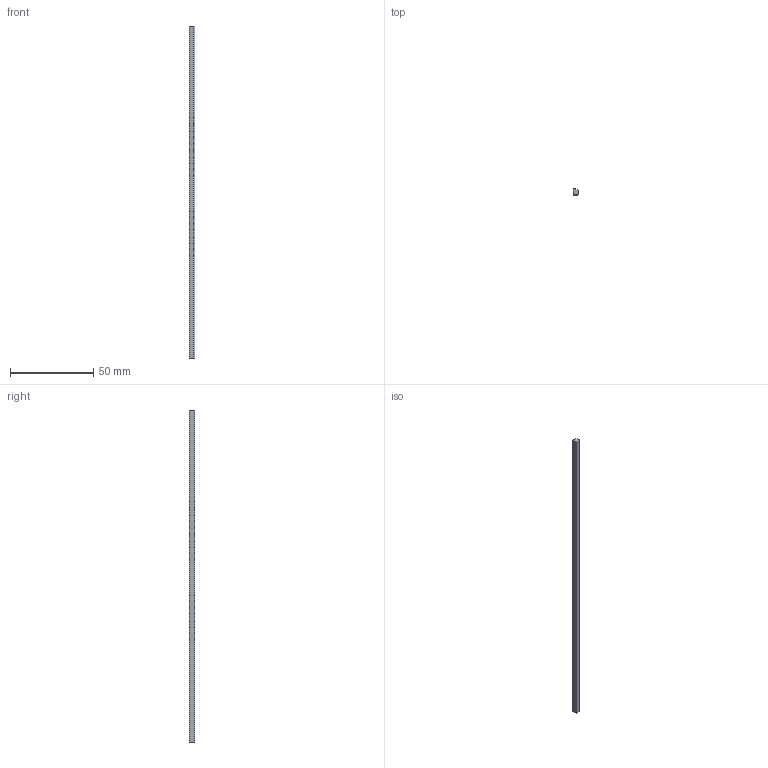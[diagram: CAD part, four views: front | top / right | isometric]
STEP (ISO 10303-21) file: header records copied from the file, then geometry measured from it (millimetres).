
FILE_DESCRIPTION(/* description */ (''),/* implementation_level */ '2;1');
FILE_NAME(/* name */ 'D:\硯聰\02.新型錄-2021\AM6系列\6系列-3D\06.6系列-AMF-飾條配件\AM6-SPF.stp',/* time_stamp */ '2021-07-21T11:11:56+08:00',/* author */ ('Owner'),/* organization */ (''),/* preprocessor_version */ 'ST-DEVELOPER v16.1',/* originating_system */ 'Autodesk Inventor 2016',/* authorisation */ '');
FILE_SCHEMA (('AUTOMOTIVE_DESIGN { 1 0 10303 214 3 1 1 }'));
Length unit declared in the file: millimetre
Products named in the file (1): AM6-SPF
Bounding box: 3.5 x 3.5 x 200 mm (x, y, z)
Volume: 2150 mm3; surface area: 2668.7 mm2
Topology: 1 solids, 1 shells, 10 faces, 24 edges, 16 vertices
Faces by surface type: plane 10
Entity records: 312 total; most frequent: CARTESIAN_POINT 51, ORIENTED_EDGE 48, DIRECTION 46, LINE 24, VECTOR 24, EDGE_CURVE 24, VERTEX_POINT 16, AXIS2_PLACEMENT_3D 11
